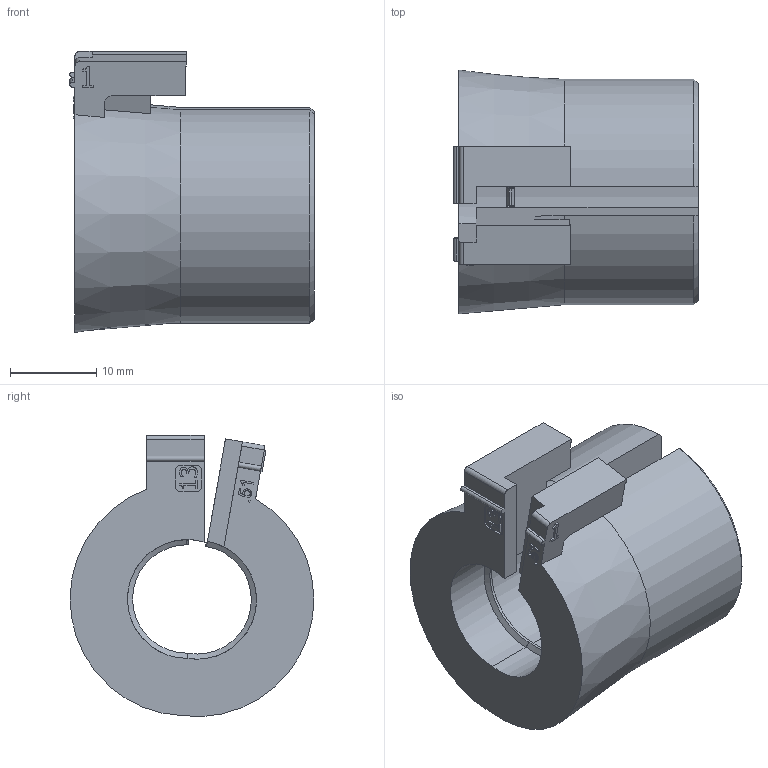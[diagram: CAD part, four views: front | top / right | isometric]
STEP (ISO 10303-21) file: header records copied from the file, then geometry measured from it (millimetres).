
FILE_DESCRIPTION(/* description */ (''),/* implementation_level */ '2;1');
FILE_NAME(/* name */ 'C:\SapWorkDir\Inventor\MP1\ConvertTempPath\87_12_121357_00_A_220530_KDT-X 13.stp',/* time_stamp */ '2022-05-31T15:53:05+02:00',/* author */ ('BAUER'),/* organization */ (''),/* preprocessor_version */ 'ST-DEVELOPER v16.13',/* originating_system */ 'Autodesk Inventor 2018',/* authorisation */ '');
FILE_SCHEMA (('AUTOMOTIVE_DESIGN { 1 0 10303 214 3 1 1 }'));
Length unit declared in the file: millimetre
Products named in the file (1): 121357
Bounding box: 28.4 x 28.33 x 32.66 mm (x, y, z)
Volume: 10543.1 mm3; surface area: 5066.7 mm2
Topology: 1 solids, 1 shells, 164 faces, 447 edges, 292 vertices
Faces by surface type: plane 100, bspline 32, cylinder 24, cone 8
Entity records: 5458 total; most frequent: CARTESIAN_POINT 1323, ORIENTED_EDGE 894, DIRECTION 700, EDGE_CURVE 447, LINE 318, VECTOR 318, VERTEX_POINT 292, AXIS2_PLACEMENT_3D 191
